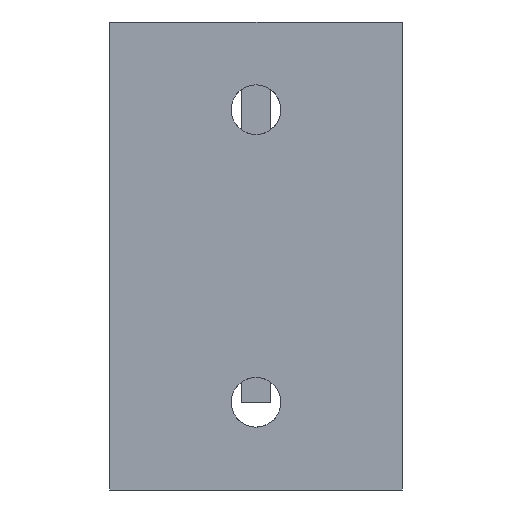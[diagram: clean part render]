
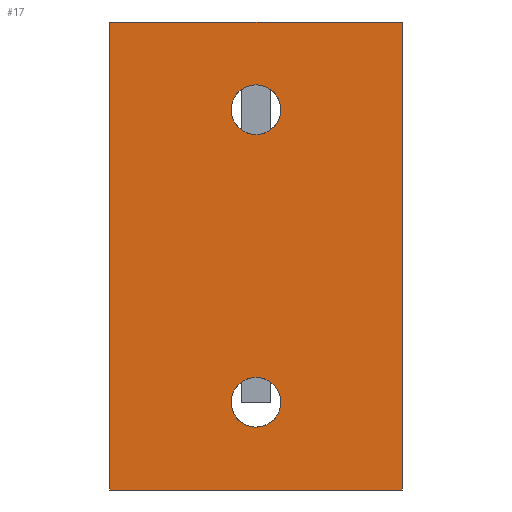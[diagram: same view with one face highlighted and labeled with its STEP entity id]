
A CAD part, left-side view. The second image highlights one B-rep face of the part: STEP entity #17.
In plain terms, the highlighted planar face has unit normal (-1, 0, 0).
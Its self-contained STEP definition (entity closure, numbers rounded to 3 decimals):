
#17 = ADVANCED_FACE('',(#18,#137,#172),#32,.F.);
#18 = FACE_BOUND('',#19,.F.);
#19 = EDGE_LOOP('',(#20,#55,#83,#111));
#20 = ORIENTED_EDGE('',*,*,#21,.F.);
#21 = EDGE_CURVE('',#22,#24,#26,.T.);
#22 = VERTEX_POINT('',#23);
#23 = CARTESIAN_POINT('',(0.,-10.,0.));
#24 = VERTEX_POINT('',#25);
#25 = CARTESIAN_POINT('',(0.,-10.,32.));
#26 = SURFACE_CURVE('',#27,(#31,#43),.PCURVE_S1.);
#27 = LINE('',#28,#29);
#28 = CARTESIAN_POINT('',(0.,-10.,0.));
#29 = VECTOR('',#30,1.);
#30 = DIRECTION('',(0.,0.,1.));
#31 = PCURVE('',#32,#37);
#32 = PLANE('',#33);
#33 = AXIS2_PLACEMENT_3D('',#34,#35,#36);
#34 = CARTESIAN_POINT('',(0.,-10.,0.));
#35 = DIRECTION('',(1.,0.,0.));
#36 = DIRECTION('',(0.,0.,1.));
#37 = DEFINITIONAL_REPRESENTATION('',(#38),#42);
#38 = LINE('',#39,#40);
#39 = CARTESIAN_POINT('',(0.,0.));
#40 = VECTOR('',#41,1.);
#41 = DIRECTION('',(1.,0.));
#42 = ( GEOMETRIC_REPRESENTATION_CONTEXT(2) 
PARAMETRIC_REPRESENTATION_CONTEXT() REPRESENTATION_CONTEXT('2D SPACE',''
  ) );
#43 = PCURVE('',#44,#49);
#44 = PLANE('',#45);
#45 = AXIS2_PLACEMENT_3D('',#46,#47,#48);
#46 = CARTESIAN_POINT('',(0.,-10.,0.));
#47 = DIRECTION('',(0.,1.,0.));
#48 = DIRECTION('',(0.,0.,1.));
#49 = DEFINITIONAL_REPRESENTATION('',(#50),#54);
#50 = LINE('',#51,#52);
#51 = CARTESIAN_POINT('',(0.,0.));
#52 = VECTOR('',#53,1.);
#53 = DIRECTION('',(1.,0.));
#54 = ( GEOMETRIC_REPRESENTATION_CONTEXT(2) 
PARAMETRIC_REPRESENTATION_CONTEXT() REPRESENTATION_CONTEXT('2D SPACE',''
  ) );
#55 = ORIENTED_EDGE('',*,*,#56,.T.);
#56 = EDGE_CURVE('',#22,#57,#59,.T.);
#57 = VERTEX_POINT('',#58);
#58 = CARTESIAN_POINT('',(0.,10.,0.));
#59 = SURFACE_CURVE('',#60,(#64,#71),.PCURVE_S1.);
#60 = LINE('',#61,#62);
#61 = CARTESIAN_POINT('',(0.,-10.,0.));
#62 = VECTOR('',#63,1.);
#63 = DIRECTION('',(0.,1.,0.));
#64 = PCURVE('',#32,#65);
#65 = DEFINITIONAL_REPRESENTATION('',(#66),#70);
#66 = LINE('',#67,#68);
#67 = CARTESIAN_POINT('',(0.,0.));
#68 = VECTOR('',#69,1.);
#69 = DIRECTION('',(0.,-1.));
#70 = ( GEOMETRIC_REPRESENTATION_CONTEXT(2) 
PARAMETRIC_REPRESENTATION_CONTEXT() REPRESENTATION_CONTEXT('2D SPACE',''
  ) );
#71 = PCURVE('',#72,#77);
#72 = PLANE('',#73);
#73 = AXIS2_PLACEMENT_3D('',#74,#75,#76);
#74 = CARTESIAN_POINT('',(0.,-10.,0.));
#75 = DIRECTION('',(0.,0.,1.));
#76 = DIRECTION('',(1.,0.,0.));
#77 = DEFINITIONAL_REPRESENTATION('',(#78),#82);
#78 = LINE('',#79,#80);
#79 = CARTESIAN_POINT('',(0.,0.));
#80 = VECTOR('',#81,1.);
#81 = DIRECTION('',(0.,1.));
#82 = ( GEOMETRIC_REPRESENTATION_CONTEXT(2) 
PARAMETRIC_REPRESENTATION_CONTEXT() REPRESENTATION_CONTEXT('2D SPACE',''
  ) );
#83 = ORIENTED_EDGE('',*,*,#84,.F.);
#84 = EDGE_CURVE('',#85,#57,#87,.T.);
#85 = VERTEX_POINT('',#86);
#86 = CARTESIAN_POINT('',(0.,10.,32.));
#87 = SURFACE_CURVE('',#88,(#92,#99),.PCURVE_S1.);
#88 = LINE('',#89,#90);
#89 = CARTESIAN_POINT('',(0.,10.,32.));
#90 = VECTOR('',#91,1.);
#91 = DIRECTION('',(0.,0.,-1.));
#92 = PCURVE('',#32,#93);
#93 = DEFINITIONAL_REPRESENTATION('',(#94),#98);
#94 = LINE('',#95,#96);
#95 = CARTESIAN_POINT('',(32.,-20.));
#96 = VECTOR('',#97,1.);
#97 = DIRECTION('',(-1.,0.));
#98 = ( GEOMETRIC_REPRESENTATION_CONTEXT(2) 
PARAMETRIC_REPRESENTATION_CONTEXT() REPRESENTATION_CONTEXT('2D SPACE',''
  ) );
#99 = PCURVE('',#100,#105);
#100 = PLANE('',#101);
#101 = AXIS2_PLACEMENT_3D('',#102,#103,#104);
#102 = CARTESIAN_POINT('',(0.,10.,0.));
#103 = DIRECTION('',(0.,1.,0.));
#104 = DIRECTION('',(0.,0.,1.));
#105 = DEFINITIONAL_REPRESENTATION('',(#106),#110);
#106 = LINE('',#107,#108);
#107 = CARTESIAN_POINT('',(32.,0.));
#108 = VECTOR('',#109,1.);
#109 = DIRECTION('',(-1.,0.));
#110 = ( GEOMETRIC_REPRESENTATION_CONTEXT(2) 
PARAMETRIC_REPRESENTATION_CONTEXT() REPRESENTATION_CONTEXT('2D SPACE',''
  ) );
#111 = ORIENTED_EDGE('',*,*,#112,.F.);
#112 = EDGE_CURVE('',#24,#85,#113,.T.);
#113 = SURFACE_CURVE('',#114,(#118,#125),.PCURVE_S1.);
#114 = LINE('',#115,#116);
#115 = CARTESIAN_POINT('',(0.,-10.,32.));
#116 = VECTOR('',#117,1.);
#117 = DIRECTION('',(0.,1.,0.));
#118 = PCURVE('',#32,#119);
#119 = DEFINITIONAL_REPRESENTATION('',(#120),#124);
#120 = LINE('',#121,#122);
#121 = CARTESIAN_POINT('',(32.,0.));
#122 = VECTOR('',#123,1.);
#123 = DIRECTION('',(0.,-1.));
#124 = ( GEOMETRIC_REPRESENTATION_CONTEXT(2) 
PARAMETRIC_REPRESENTATION_CONTEXT() REPRESENTATION_CONTEXT('2D SPACE',''
  ) );
#125 = PCURVE('',#126,#131);
#126 = PLANE('',#127);
#127 = AXIS2_PLACEMENT_3D('',#128,#129,#130);
#128 = CARTESIAN_POINT('',(0.,-10.,32.));
#129 = DIRECTION('',(0.,0.,1.));
#130 = DIRECTION('',(1.,0.,0.));
#131 = DEFINITIONAL_REPRESENTATION('',(#132),#136);
#132 = LINE('',#133,#134);
#133 = CARTESIAN_POINT('',(0.,0.));
#134 = VECTOR('',#135,1.);
#135 = DIRECTION('',(0.,1.));
#136 = ( GEOMETRIC_REPRESENTATION_CONTEXT(2) 
PARAMETRIC_REPRESENTATION_CONTEXT() REPRESENTATION_CONTEXT('2D SPACE',''
  ) );
#137 = FACE_BOUND('',#138,.F.);
#138 = EDGE_LOOP('',(#139));
#139 = ORIENTED_EDGE('',*,*,#140,.T.);
#140 = EDGE_CURVE('',#141,#141,#143,.T.);
#141 = VERTEX_POINT('',#142);
#142 = CARTESIAN_POINT('',(0.,1.7,6.));
#143 = SURFACE_CURVE('',#144,(#149,#160),.PCURVE_S1.);
#144 = CIRCLE('',#145,1.7);
#145 = AXIS2_PLACEMENT_3D('',#146,#147,#148);
#146 = CARTESIAN_POINT('',(0.,0.,6.));
#147 = DIRECTION('',(-1.,0.,0.));
#148 = DIRECTION('',(0.,1.,0.));
#149 = PCURVE('',#32,#150);
#150 = DEFINITIONAL_REPRESENTATION('',(#151),#159);
#151 = ( BOUNDED_CURVE() B_SPLINE_CURVE(2,(#152,#153,#154,#155,#156,#157
,#158),.UNSPECIFIED.,.T.,.F.) B_SPLINE_CURVE_WITH_KNOTS((1,2,2,2,2,1),(
    -2.094,0.,2.094,4.189,6.283,
8.378),.UNSPECIFIED.) CURVE() GEOMETRIC_REPRESENTATION_ITEM() 
RATIONAL_B_SPLINE_CURVE((1.,0.5,1.,0.5,1.,0.5,1.)) REPRESENTATION_ITEM(
  '') );
#152 = CARTESIAN_POINT('',(6.,-11.7));
#153 = CARTESIAN_POINT('',(3.056,-11.7));
#154 = CARTESIAN_POINT('',(4.528,-9.15));
#155 = CARTESIAN_POINT('',(6.,-6.6));
#156 = CARTESIAN_POINT('',(7.472,-9.15));
#157 = CARTESIAN_POINT('',(8.944,-11.7));
#158 = CARTESIAN_POINT('',(6.,-11.7));
#159 = ( GEOMETRIC_REPRESENTATION_CONTEXT(2) 
PARAMETRIC_REPRESENTATION_CONTEXT() REPRESENTATION_CONTEXT('2D SPACE',''
  ) );
#160 = PCURVE('',#161,#166);
#161 = CYLINDRICAL_SURFACE('',#162,1.7);
#162 = AXIS2_PLACEMENT_3D('',#163,#164,#165);
#163 = CARTESIAN_POINT('',(-1.,0.,6.));
#164 = DIRECTION('',(-1.,-0.,-0.));
#165 = DIRECTION('',(0.,1.,0.));
#166 = DEFINITIONAL_REPRESENTATION('',(#167),#171);
#167 = LINE('',#168,#169);
#168 = CARTESIAN_POINT('',(-6.283,-1.));
#169 = VECTOR('',#170,1.);
#170 = DIRECTION('',(1.,-0.));
#171 = ( GEOMETRIC_REPRESENTATION_CONTEXT(2) 
PARAMETRIC_REPRESENTATION_CONTEXT() REPRESENTATION_CONTEXT('2D SPACE',''
  ) );
#172 = FACE_BOUND('',#173,.F.);
#173 = EDGE_LOOP('',(#174));
#174 = ORIENTED_EDGE('',*,*,#175,.T.);
#175 = EDGE_CURVE('',#176,#176,#178,.T.);
#176 = VERTEX_POINT('',#177);
#177 = CARTESIAN_POINT('',(0.,1.7,26.));
#178 = SURFACE_CURVE('',#179,(#184,#195),.PCURVE_S1.);
#179 = CIRCLE('',#180,1.7);
#180 = AXIS2_PLACEMENT_3D('',#181,#182,#183);
#181 = CARTESIAN_POINT('',(0.,0.,26.));
#182 = DIRECTION('',(-1.,0.,0.));
#183 = DIRECTION('',(0.,1.,0.));
#184 = PCURVE('',#32,#185);
#185 = DEFINITIONAL_REPRESENTATION('',(#186),#194);
#186 = ( BOUNDED_CURVE() B_SPLINE_CURVE(2,(#187,#188,#189,#190,#191,#192
,#193),.UNSPECIFIED.,.T.,.F.) B_SPLINE_CURVE_WITH_KNOTS((1,2,2,2,2,1),(
    -2.094,0.,2.094,4.189,6.283,
8.378),.UNSPECIFIED.) CURVE() GEOMETRIC_REPRESENTATION_ITEM() 
RATIONAL_B_SPLINE_CURVE((1.,0.5,1.,0.5,1.,0.5,1.)) REPRESENTATION_ITEM(
  '') );
#187 = CARTESIAN_POINT('',(26.,-11.7));
#188 = CARTESIAN_POINT('',(23.056,-11.7));
#189 = CARTESIAN_POINT('',(24.528,-9.15));
#190 = CARTESIAN_POINT('',(26.,-6.6));
#191 = CARTESIAN_POINT('',(27.472,-9.15));
#192 = CARTESIAN_POINT('',(28.944,-11.7));
#193 = CARTESIAN_POINT('',(26.,-11.7));
#194 = ( GEOMETRIC_REPRESENTATION_CONTEXT(2) 
PARAMETRIC_REPRESENTATION_CONTEXT() REPRESENTATION_CONTEXT('2D SPACE',''
  ) );
#195 = PCURVE('',#196,#201);
#196 = CYLINDRICAL_SURFACE('',#197,1.7);
#197 = AXIS2_PLACEMENT_3D('',#198,#199,#200);
#198 = CARTESIAN_POINT('',(-1.,0.,26.));
#199 = DIRECTION('',(-1.,-0.,-0.));
#200 = DIRECTION('',(0.,1.,0.));
#201 = DEFINITIONAL_REPRESENTATION('',(#202),#206);
#202 = LINE('',#203,#204);
#203 = CARTESIAN_POINT('',(-6.283,-1.));
#204 = VECTOR('',#205,1.);
#205 = DIRECTION('',(1.,-0.));
#206 = ( GEOMETRIC_REPRESENTATION_CONTEXT(2) 
PARAMETRIC_REPRESENTATION_CONTEXT() REPRESENTATION_CONTEXT('2D SPACE',''
  ) );
